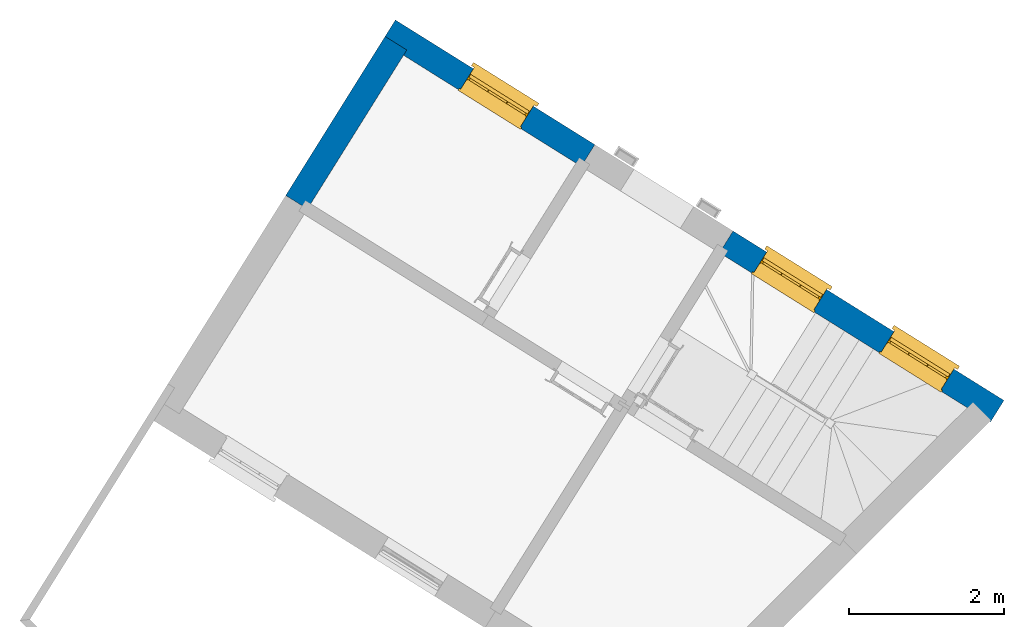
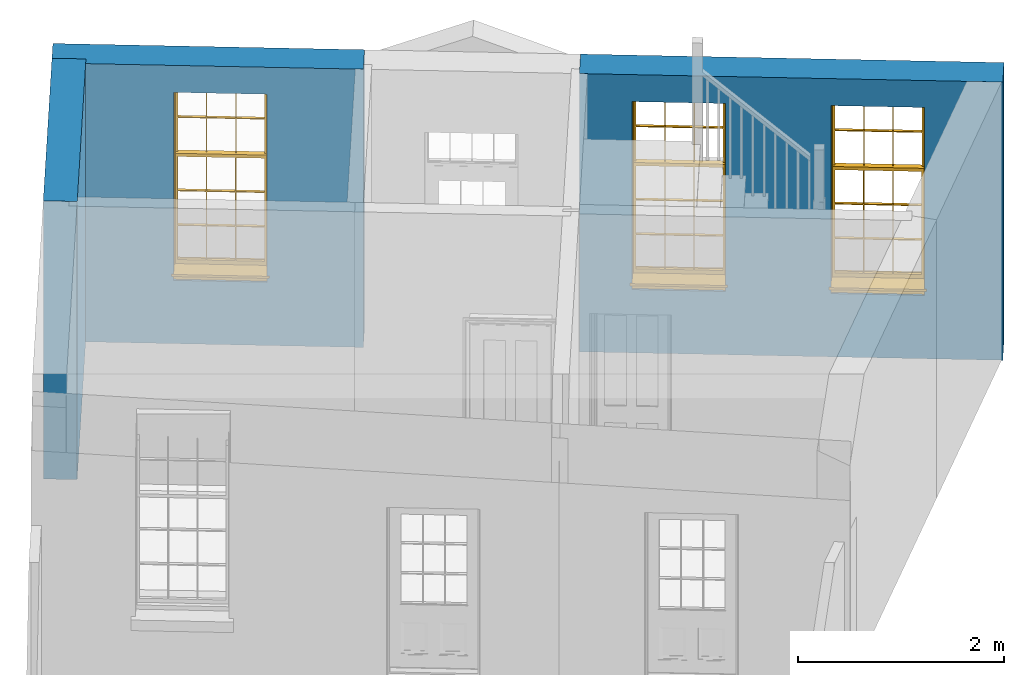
# One storey, part 4 of 5: 3 walls, 3 windows, 3 openings.
"""IFC4 building model written with IfcOpenShell, lengths in metres."""

from ifc_helpers import new_model, si_unit, frame, origin, origin_with_axes, place, context, subcontext, project, spatial, polyline, outline, extrude, faceted_brep, source, transform, mapped, material, layer, layer_set, layer_usage, type_object, type_shapes, element, fill, save


model = new_model("IFC4")

# Units and contexts
model_context = context("Model", 3, world=origin_with_axes())
body_context = subcontext(model_context, "Body", "Model", "MODEL_VIEW")
ifc_project = project(units=[si_unit("PLANEANGLEUNIT", "RADIAN"), si_unit("MASSUNIT", "GRAM", prefix="KILO"), si_unit("FORCEUNIT", "NEWTON", prefix="KILO"), si_unit("LENGTHUNIT", "METRE"), si_unit("AREAUNIT", "SQUARE_METRE"), si_unit("VOLUMEUNIT", "CUBIC_METRE")], contexts=[model_context, model_context])

# Sites, building, storey
site_1_placement = place(None, origin_with_axes())
site_1 = spatial("IfcSite", under=ifc_project, at=site_1_placement, Name="Tamar")
site_2_placement = place(site_1_placement, origin_with_axes())
site_2 = spatial("IfcSite", under=site_1, at=site_2_placement, Name="Site plot-4", CompositionType="ELEMENT")
building_placement = place(None, origin_with_axes())
building = spatial("IfcBuilding", under=site_2, at=building_placement, Name="Building plot-4", CompositionType="ELEMENT")
storey_placement = place(None, frame((0.0, 0.0, 24.5), z_axis=(0.0, 0.0, 1.0), x_axis=(1.0, 0.0, 0.0)))
storey = spatial("IfcBuildingStorey", under=building, at=storey_placement, Name="plot-4 0", CompositionType="ELEMENT", Elevation=24.5)

# Wall, openings, windows
ifc_material_1 = material(Name="Masonry")
ifc_layer_1 = layer(ifc_material_1, 0.33, ventilated=False)
ifc_layer_set_1 = layer_set([ifc_layer_1], Name="exterior_0.08_0.25")
ifc_layer_usage_1 = layer_usage(ifc_layer_set_1, "AXIS2", "POSITIVE", -0.25)
wall_type_1 = type_object("IfcWallType", Name="exterior_0.08_0.25", PredefinedType="SOLIDWALL", material=ifc_layer_set_1)
wall_1_placement = place(storey_placement, frame((228.178329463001, 281.531399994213, 0.0), z_axis=(0.0, 0.0, 1.0), x_axis=(-0.847981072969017, 0.530026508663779, 0.0)))
wall_1 = element("IfcWall", 1, at=wall_1_placement, inside=storey, type_object=wall_type_1, material=ifc_layer_usage_1, Name="exterior", context=body_context, shape_type="SweptSolid", body=[
    extrude(outline(polyline([(-0.249999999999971, 0.0799999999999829), (-0.249999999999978, -0.250000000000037), (3.86736989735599, -0.250000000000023), (3.86736989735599, 0.0799999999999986), (-0.249999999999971, 0.0799999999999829)])), origin_with_axes(), (0.0, 0.0, 1.0), 3.3),
])
opening_1_placement = place(wall_1_placement, frame((0.511842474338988, 0.0, 0.75)))
opening_1 = element("IfcOpeningElement", 2, at=opening_1_placement, cuts=wall_1, Name="My Opening", ObjectType="Opening", context=body_context, shape_type="SweptSolid", body=[
    extrude(outline(polyline([(0.0, -0.269999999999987), (0.91, -0.270000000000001), (0.910000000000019, 1.09999999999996), (1.94289029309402e-14, 1.09999999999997), (0.0, -0.269999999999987)])), origin_with_axes(), (0.0, 0.0, 1.0), 2.23),
])
opening_2_placement = place(wall_1_placement, frame((2.44552742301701, 0.0, 0.75)))
opening_2 = element("IfcOpeningElement", 3, at=opening_2_placement, cuts=wall_1, Name="My Opening", ObjectType="Opening", context=body_context, shape_type="SweptSolid", body=[
    extrude(outline(polyline([(0.0, -0.270000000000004), (0.91, -0.270000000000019), (0.910000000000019, 1.09999999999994), (1.90958360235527e-14, 1.09999999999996), (0.0, -0.270000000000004)])), origin_with_axes(), (0.0, 0.0, 1.0), 2.23),
])
window_type = type_object("IfcWindowType", Name="sash_big_taller", PartitioningType="DOUBLE_PANEL_HORIZONTAL", PredefinedType="NOTDEFINED")
shared_shape = source(origin(), body_context, "Body", "Brep", [
    faceted_brep([(0.033125, 0.145, 1.385209), (0.01, 0.145, 1.385209), (0.033125, 0.145, 1.786042), (0.876875, 0.145, 1.385209), (0.876875, 0.145, 1.786042), (0.9, 0.145, 1.385209), (0.876875, 0.145, 1.796042), (0.876875, 0.145, 2.196875), (0.9, 0.145, 2.22), (0.033125, 0.145, 2.196875), (0.033125, 0.145, 1.796042), (0.01, 0.145, 2.22), (0.876875, 0.115, 1.786042), (0.876875, 0.115, 1.385209), (0.9, 0.115, 1.347084), (0.033125, 0.115, 2.196875), (0.01, 0.115, 2.22), (0.033125, 0.115, 1.796042), (0.01, 0.115, 1.347084), (0.033125, 0.115, 1.385209), (0.033125, 0.115, 1.786042), (0.876875, 0.115, 2.196875), (0.876875, 0.115, 1.796042), (0.9, 0.115, 2.22), (0.033125, 0.145, 1.347084), (0.01, 0.145, 1.347084), (0.033125, 0.145, 0.94625), (0.876875, 0.145, 1.347084), (0.876875, 0.145, 0.94625), (0.9, 0.145, 1.347084), (0.876875, 0.145, 0.52625), (0.876875, 0.145, 0.125417), (0.9, 0.145, 0.077167), (0.033125, 0.145, 0.125417), (0.033125, 0.145, 0.52625), (0.01, 0.145, 0.077167), (-0.0425, 0.0, 0.01), (-0.0425, -0.05, 0.001667), (0.0, 0.0, 0.01), (0.9525, 0.0, 0.01), (0.91, 0.0, 0.01), (0.9525, -0.05, 0.001667), (-0.02, 0.33, 0.077167), (0.0, 0.33, 0.077167), (-0.02, 0.36, 0.077167), (0.0, 0.19, 0.077167), (0.01, 0.19, 0.077167), (0.91, 0.19, 0.077167), (0.91, 0.33, 0.077167), (0.9, 0.19, 0.077167), (0.93, 0.33, 0.077167), (0.93, 0.36, 0.077167), (0.01, 0.175, 1.385209), (0.9, 0.175, 1.385209), (0.876875, 0.175, 0.125417), (0.876875, 0.175, 0.52625), (0.9, 0.175, 0.077167), (0.876875, 0.175, 0.94625), (0.876875, 0.175, 1.347084), (0.033125, 0.175, 0.125417), (0.01, 0.175, 0.077167), (0.033125, 0.175, 0.52625), (0.033125, 0.175, 1.347084), (0.033125, 0.175, 0.94625), (-0.02, 0.33, 0.052167), (-0.02, 0.36, 0.052167), (0.93, 0.36, 0.052167), (0.93, 0.33, 0.052167), (0.91, 0.33, 0.052167), (0.0, 0.33, 0.052167), (0.91, 0.1, 0.026667), (0.0, 0.1, 0.026667), (-0.0425, -0.05, -0.123333), (0.9525, -0.05, -0.123333), (-0.0425, 0.0, -0.123333), (0.9525, 0.0, -0.123333), (0.01, 0.19, 2.22), (0.9, 0.19, 2.22), (0.0, 0.19, 2.23), (0.91, 0.19, 2.23), (0.01, 0.1, 0.077167), (0.9, 0.1, 0.077167), (0.592292, 0.145, 0.125417), (0.592292, 0.175, 0.125417), (0.317708, 0.175, 0.125417), (0.317708, 0.145, 0.125417), (0.592292, 0.145, 0.53625), (0.317708, 0.145, 0.53625), (0.317708, 0.145, 0.52625), (0.592292, 0.145, 0.52625), (0.592292, 0.175, 0.53625), (0.317708, 0.175, 0.53625), (0.592292, 0.115, 1.796042), (0.592292, 0.145, 1.796042), (0.317708, 0.145, 1.796042), (0.317708, 0.115, 1.796042), (0.317708, 0.115, 1.786042), (0.592292, 0.115, 1.786042), (0.317708, 0.145, 1.786042), (0.592292, 0.145, 1.786042), (0.602292, 0.115, 1.786042), (0.592292, 0.115, 1.385209), (0.602292, 0.115, 1.385209), (0.602292, 0.145, 1.385209), (0.592292, 0.145, 1.385209), (0.602292, 0.145, 1.786042), (0.876875, 0.145, 0.53625), (0.876875, 0.175, 0.53625), (0.602292, 0.175, 0.53625), (0.602292, 0.145, 0.53625), (0.317708, 0.175, 0.52625), (0.307708, 0.175, 0.125417), (0.307708, 0.175, 0.52625), (0.602292, 0.175, 0.52625), (0.602292, 0.175, 0.125417), (0.592292, 0.175, 0.52625), (0.307708, 0.175, 0.53625), (0.033125, 0.175, 0.53625), (0.317708, 0.175, 1.347084), (0.317708, 0.175, 0.94625), (0.307708, 0.175, 0.94625), (0.307708, 0.175, 1.347084), (0.602292, 0.175, 1.347084), (0.602292, 0.175, 0.94625), (0.592292, 0.175, 0.94625), (0.592292, 0.175, 1.347084), (0.307708, 0.145, 0.52625), (0.307708, 0.145, 0.125417), (0.307708, 0.145, 0.53625), (0.033125, 0.145, 0.53625), (0.307708, 0.145, 1.347084), (0.307708, 0.145, 0.94625), (0.592292, 0.145, 1.347084), (0.592292, 0.145, 0.94625), (0.317708, 0.145, 0.94625), (0.317708, 0.145, 1.347084), (0.602292, 0.145, 0.94625), (0.602292, 0.145, 1.347084), (0.602292, 0.145, 0.52625), (0.602292, 0.145, 0.125417), (0.307708, 0.115, 1.796042), (0.307708, 0.115, 1.786042), (0.307708, 0.115, 1.385209), (0.317708, 0.115, 1.385209), (0.317708, 0.115, 2.196875), (0.307708, 0.115, 2.196875), (0.602292, 0.115, 2.196875), (0.592292, 0.115, 2.196875), (0.602292, 0.115, 1.796042), (0.602292, 0.145, 1.796042), (0.307708, 0.145, 1.796042), (0.307708, 0.145, 2.196875), (0.317708, 0.145, 2.196875), (0.592292, 0.145, 2.196875), (0.602292, 0.145, 2.196875), (0.307708, 0.145, 1.786042), (0.317708, 0.145, 1.385209), (0.307708, 0.145, 1.385209), (0.876875, 0.175, 0.93625), (0.033125, 0.175, 0.93625), (0.033125, 0.145, 0.93625), (0.876875, 0.145, 0.93625), (0.91, 0.1, 2.23), (0.9, 0.1, 2.22), (0.01, 0.1, 2.22), (0.0, 0.1, 2.23), (0.91, 0.0, 0.0), (0.0, 0.0, 0.0), (0.91, 0.33, 0.0), (0.0, 0.33, 0.0), (0.317708, 0.145, 0.93625), (0.592292, 0.145, 0.93625), (0.317708, 0.175, 0.93625), (0.307708, 0.175, 0.93625), (0.602292, 0.175, 0.93625), (0.592292, 0.175, 0.93625), (0.307708, 0.145, 0.93625), (0.602292, 0.145, 0.93625)], [[[0, 1, 2]], [[3, 4, 5]], [[6, 7, 8]], [[9, 10, 11]], [[12, 13, 14]], [[15, 16, 17]], [[18, 19, 20]], [[21, 22, 23]], [[24, 25, 26]], [[27, 28, 29]], [[30, 31, 32]], [[33, 34, 35]], [[14, 27, 29]], [[25, 24, 18]], [[36, 37, 38]], [[39, 40, 41]], [[42, 43, 44]], [[45, 46, 43]], [[47, 48, 49]], [[50, 51, 48]], [[1, 0, 52]], [[5, 53, 3]], [[54, 55, 56]], [[57, 58, 53]], [[59, 60, 61]], [[62, 63, 52]], [[48, 43, 46, 49]], [[51, 44, 43, 48]], [[64, 42, 44, 65]], [[65, 44, 51, 66]], [[66, 51, 50, 67]], [[65, 66, 68, 69]], [[60, 56, 49, 46]], [[70, 71, 38, 40]], [[37, 41, 40, 38]], [[37, 72, 73, 41]], [[74, 75, 73, 72]], [[8, 11, 76, 77]], [[76, 78, 79, 77]], [[32, 35, 80, 81]], [[81, 80, 71, 70]], [[82, 83, 84, 85]], [[86, 87, 88, 89]], [[86, 90, 91, 87]], [[92, 93, 94, 95]], [[92, 95, 96, 97]], [[96, 98, 99, 97]], [[100, 97, 101, 102]], [[103, 104, 99, 105]], [[97, 99, 104, 101]], [[102, 103, 105, 100]], [[106, 107, 108, 109]], [[110, 84, 111, 112]], [[113, 114, 83, 115]], [[116, 112, 61, 117]], [[90, 115, 110, 91]], [[118, 119, 120, 121]], [[122, 123, 124, 125]], [[113, 108, 107, 55]], [[126, 112, 111, 127]], [[34, 61, 112, 126]], [[89, 115, 83, 82]], [[88, 110, 115, 89]], [[85, 84, 110, 88]], [[128, 116, 117, 129]], [[130, 121, 120, 131]], [[132, 125, 124, 133]], [[134, 119, 118, 135]], [[136, 123, 122, 137]], [[138, 113, 55, 30]], [[139, 114, 113, 138]], [[138, 30, 106, 109]], [[88, 126, 127, 85]], [[138, 89, 82, 139]], [[137, 132, 133, 136]], [[128, 129, 34, 126]], [[135, 130, 131, 134]], [[140, 17, 20, 141]], [[96, 141, 142, 143]], [[144, 145, 140, 95]], [[146, 147, 92, 148]], [[100, 12, 22, 148]], [[149, 6, 4, 105]], [[94, 150, 151, 152]], [[149, 93, 153, 154]], [[99, 98, 94, 93]], [[155, 2, 10, 150]], [[156, 157, 155, 98]], [[141, 155, 157, 142]], [[20, 2, 155, 141]], [[143, 156, 98, 96]], [[140, 150, 10, 17]], [[145, 151, 150, 140]], [[147, 153, 93, 92]], [[95, 94, 152, 144]], [[22, 6, 149, 148]], [[148, 149, 154, 146]], [[100, 105, 4, 12]], [[109, 86, 89, 138]], [[108, 113, 115, 90]], [[91, 110, 112, 116]], [[87, 128, 126, 88]], [[97, 100, 148, 92]], [[141, 96, 95, 140]], [[98, 155, 150, 94]], [[105, 99, 93, 149]], [[143, 101, 104, 156]], [[135, 118, 125, 132]], [[144, 152, 153, 147]], [[127, 111, 59, 33]], [[15, 9, 151, 145]], [[146, 154, 7, 21]], [[31, 54, 114, 139]], [[36, 74, 72, 37]], [[39, 41, 73, 75]], [[18, 14, 101, 143]], [[23, 16, 144, 147]], [[83, 56, 60, 84]], [[52, 53, 125, 118]], [[53, 52, 156, 104]], [[11, 8, 153, 152]], [[14, 18, 135, 132]], [[2, 1, 11, 10]], [[8, 5, 4, 6]], [[57, 53, 56, 158]], [[60, 52, 63, 159]], [[26, 25, 35, 160]], [[32, 29, 28, 161]], [[14, 23, 22, 12]], [[18, 20, 17, 16]], [[19, 0, 2, 20]], [[17, 10, 9, 15]], [[12, 4, 3, 13]], [[21, 7, 6, 22]], [[27, 58, 57, 28]], [[30, 55, 54, 31]], [[33, 59, 61, 34]], [[26, 63, 62, 24]], [[5, 8, 77, 53]], [[76, 11, 1, 52]], [[46, 45, 78, 76]], [[49, 77, 79, 47]], [[70, 162, 163, 81]], [[71, 80, 164, 165]], [[19, 142, 157, 0]], [[102, 13, 3, 103]], [[121, 130, 24, 62]], [[29, 32, 81, 14]], [[80, 35, 25, 18]], [[60, 46, 76, 52]], [[77, 49, 56, 53]], [[23, 14, 81, 163]], [[16, 164, 80, 18]], [[35, 85, 127]], [[127, 33, 35]], [[139, 82, 32]], [[32, 31, 139]], [[32, 82, 85, 35]], [[102, 101, 14]], [[14, 13, 102]], [[18, 143, 142]], [[142, 19, 18]], [[146, 21, 23]], [[23, 147, 146]], [[16, 15, 145]], [[145, 144, 16]], [[11, 152, 151]], [[151, 9, 11]], [[154, 153, 8]], [[8, 7, 154]], [[23, 163, 164, 16]], [[162, 165, 164, 163]], [[52, 118, 121]], [[121, 62, 52]], [[125, 53, 122]], [[58, 122, 53]], [[27, 137, 122, 58]], [[56, 83, 114]], [[114, 54, 56]], [[111, 84, 60]], [[60, 59, 111]], [[137, 27, 14]], [[14, 132, 137]], [[130, 135, 18]], [[18, 24, 130]], [[157, 156, 52]], [[52, 0, 157]], [[103, 3, 53]], [[53, 104, 103]], [[79, 78, 165, 162]], [[78, 45, 71, 165]], [[162, 70, 47, 79]], [[166, 75, 74, 167]], [[68, 66, 67]], [[48, 68, 67, 50]], [[69, 64, 65]], [[42, 64, 69, 43]], [[69, 68, 168, 169]], [[70, 68, 48, 47]], [[166, 168, 68, 70]], [[43, 69, 71, 45]], [[69, 169, 167, 71]], [[168, 166, 167, 169]], [[38, 167, 74, 36]], [[71, 167, 38]], [[39, 75, 166, 40]], [[40, 166, 70]], [[133, 134, 170, 171]], [[133, 124, 119, 134]], [[28, 57, 123, 136]], [[172, 91, 116, 173]], [[174, 108, 90, 175]], [[120, 173, 159, 63]], [[124, 175, 172, 119]], [[174, 123, 57, 158]], [[176, 173, 116, 128]], [[160, 159, 173, 176]], [[171, 175, 90, 86]], [[170, 172, 175, 171]], [[87, 91, 172, 170]], [[131, 120, 63, 26]], [[177, 174, 158, 161]], [[109, 108, 174, 177]], [[177, 161, 28, 136]], [[170, 176, 128, 87]], [[177, 171, 86, 109]], [[131, 26, 160, 176]], [[136, 133, 171, 177]], [[123, 174, 175, 124]], [[119, 172, 173, 120]], [[134, 131, 176, 170]], [[129, 117, 159, 160]], [[161, 158, 107, 106]], [[35, 34, 129]], [[35, 129, 160]], [[32, 106, 30]], [[32, 161, 106]], [[56, 55, 107]], [[56, 107, 158]], [[60, 117, 61]], [[60, 159, 117]]]),
])
type_shapes(window_type, [shared_shape])
window_1_placement = place(storey_placement, frame((227.887403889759, 282.031644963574, 0.75), z_axis=(0.0, 0.0, 1.0), x_axis=(-0.771662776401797, 0.482324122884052, 0.0)))
window_1 = element("IfcWindow", 4, at=window_1_placement, inside=storey, type_object=window_type, Name="circulation street window", OverallHeight=2.23, OverallWidth=0.91, context=body_context, shape_type="MappedRepresentation", body=[
    mapped(shared_shape, transform((0.0, 0.0, 0.0), scale=1.0)),
])
fill(opening_1, window_1)
window_2_placement = place(storey_placement, frame((226.247675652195, 283.056549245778, 0.75), z_axis=(0.0, 0.0, 1.0), x_axis=(-0.771662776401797, 0.482324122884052, 0.0)))
window_2 = element("IfcWindow", 5, at=window_2_placement, inside=storey, type_object=window_type, Name="circulation street window", OverallHeight=2.23, OverallWidth=0.91, context=body_context, shape_type="MappedRepresentation", body=[
    mapped(shared_shape, transform((0.0, 0.0, 0.0), scale=1.0)),
])
fill(opening_2, window_2)

# Wall, opening, window
wall_2_placement = place(storey_placement, frame((223.118206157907, 284.694205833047, 0.0), z_axis=(0.0, 0.0, 1.0), x_axis=(-0.847981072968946, 0.530026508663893, 0.0)))
wall_2 = element("IfcWall", 6, at=wall_2_placement, inside=storey, type_object=wall_type_1, material=ifc_layer_usage_1, Name="exterior", context=body_context, shape_type="SweptSolid", body=[
    extrude(outline(polyline([(1.78125542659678e-15, 0.0799999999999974), (6.30204647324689e-14, -0.250000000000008), (3.03060336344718, -0.249999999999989), (3.0306033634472, 0.0799999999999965), (1.78125542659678e-15, 0.0799999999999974)])), origin_with_axes(), (0.0, 0.0, 1.0), 3.3),
])
opening_3_placement = place(wall_2_placement, frame((0.93530168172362, 0.0, 0.75)))
opening_3 = element("IfcOpeningElement", 7, at=opening_3_placement, cuts=wall_2, Name="My Opening", ObjectType="Opening", context=body_context, shape_type="SweptSolid", body=[
    extrude(outline(polyline([(0.0, -0.270000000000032), (0.909999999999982, -0.270000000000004), (0.909999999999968, 1.09999999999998), (-1.38777878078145e-14, 1.09999999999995), (0.0, -0.270000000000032)])), origin_with_axes(), (0.0, 0.0, 1.0), 2.23),
])
window_3_placement = place(storey_placement, frame((222.468195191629, 285.41889540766, 0.75), z_axis=(0.0, 0.0, 1.0), x_axis=(-0.77166277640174, 0.482324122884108, 0.0)))
window_3 = element("IfcWindow", 8, at=window_3_placement, inside=storey, type_object=window_type, Name="toilet street window", OverallHeight=2.23, OverallWidth=0.91, context=body_context, shape_type="MappedRepresentation", body=[
    mapped(shared_shape, transform((0.0, 0.0, 0.0), scale=1.0)),
])
fill(opening_3, window_3)

# Wall
ifc_material_2 = material(Name="Masonry")
ifc_layer_2 = layer(ifc_material_2, 0.33, ventilated=False)
ifc_layer_set_2 = layer_set([ifc_layer_2], Name="party_0.08_0.25")
ifc_layer_usage_2 = layer_usage(ifc_layer_set_2, "AXIS2", "POSITIVE", -0.25)
wall_type_2 = type_object("IfcWallType", Name="party_0.08_0.25", PredefinedType="SOLIDWALL", material=ifc_layer_set_2)
wall_3_placement = place(storey_placement, frame((220.76030713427, 286.167999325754, 0.0), z_axis=(0.0, 0.0, 1.0), x_axis=(-0.530026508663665, -0.847981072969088, 0.0)))
element("IfcWall", 9, at=wall_3_placement, inside=storey, type_object=wall_type_2, material=ifc_layer_usage_2, Name="party", context=body_context, shape_type="SweptSolid", body=[
    extrude(outline(polyline([(8.22759997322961e-15, 0.0800000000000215), (-4.3145617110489e-15, -0.250000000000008), (2.41664949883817, -0.250000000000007), (2.41664949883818, 0.0800000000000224), (8.22759997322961e-15, 0.0800000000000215)])), origin_with_axes(), (0.0, 0.0, 1.0), 3.3),
])

save(model, "model.ifc")
